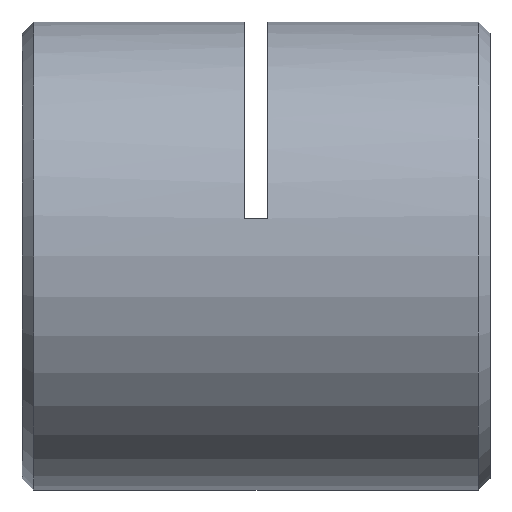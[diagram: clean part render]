
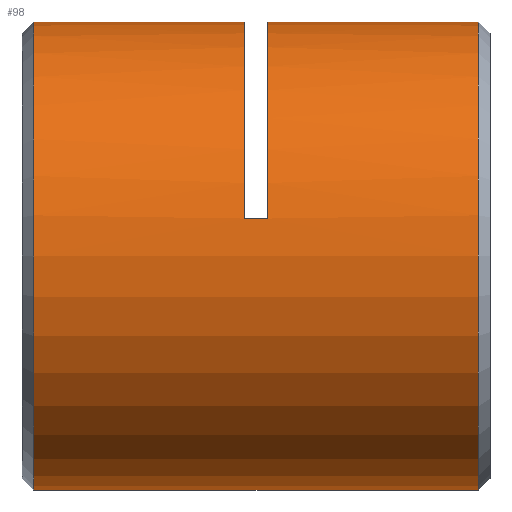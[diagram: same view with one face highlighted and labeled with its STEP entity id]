
A CAD part, left-side view. The second image highlights one B-rep face of the part: STEP entity #98.
In plain terms, the highlighted cylindrical face has radius 8 mm (diameter 16 mm), a partial arc.
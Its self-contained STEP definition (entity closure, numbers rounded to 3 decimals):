
#39 = DIRECTION ( 'NONE',  ( 0., 0., -1. ) ) ;
#94 = CARTESIAN_POINT ( 'NONE',  ( 0., 0.65, 0. ) ) ;
#98 = ADVANCED_FACE ( 'NONE', ( #2787 ), #3502, .T. ) ;
#159 = EDGE_LOOP ( 'NONE', ( #1246, #3808, #1017, #1973, #1243, #2107, #1137, #3886 ) ) ;
#333 = CIRCLE ( 'NONE', #3948, 8. ) ;
#352 = VECTOR ( 'NONE', #1625, 1000. ) ;
#354 = VERTEX_POINT ( 'NONE', #418 ) ;
#364 = DIRECTION ( 'NONE',  ( 0., 1., 0. ) ) ;
#404 = LINE ( 'NONE', #984, #452 ) ;
#417 = DIRECTION ( 'NONE',  ( 0., 0., 1. ) ) ;
#418 = CARTESIAN_POINT ( 'NONE',  ( 0., 0.65, -8. ) ) ;
#427 = EDGE_CURVE ( 'NONE', #2008, #2704, #2584, .T. ) ;
#452 = VECTOR ( 'NONE', #364, 1000. ) ;
#475 = AXIS2_PLACEMENT_3D ( 'NONE', #3677, #1828, #39 ) ;
#492 = AXIS2_PLACEMENT_3D ( 'NONE', #2753, #2127, #3066 ) ;
#631 = CIRCLE ( 'NONE', #2087, 8. ) ;
#703 = CARTESIAN_POINT ( 'NONE',  ( 0., 15.85, 8. ) ) ;
#772 = DIRECTION ( 'NONE',  ( 0., 0., 1. ) ) ;
#782 = CARTESIAN_POINT ( 'NONE',  ( 0., 0.25, 8. ) ) ;
#821 = CARTESIAN_POINT ( 'NONE',  ( 0., 0.25, 8. ) ) ;
#971 = VECTOR ( 'NONE', #3866, 1000. ) ;
#984 = CARTESIAN_POINT ( 'NONE',  ( 0., 0.25, -8. ) ) ;
#1017 = ORIENTED_EDGE ( 'NONE', *, *, #3136, .T. ) ;
#1026 = DIRECTION ( 'NONE',  ( 0., 1., 0. ) ) ;
#1095 = VERTEX_POINT ( 'NONE', #1199 ) ;
#1137 = ORIENTED_EDGE ( 'NONE', *, *, #427, .T. ) ;
#1151 = LINE ( 'NONE', #3739, #352 ) ;
#1199 = CARTESIAN_POINT ( 'NONE',  ( 0., 0.65, 8. ) ) ;
#1215 = EDGE_CURVE ( 'NONE', #354, #1545, #404, .T. ) ;
#1243 = ORIENTED_EDGE ( 'NONE', *, *, #1277, .T. ) ;
#1246 = ORIENTED_EDGE ( 'NONE', *, *, #1215, .F. ) ;
#1277 = EDGE_CURVE ( 'NONE', #1868, #3745, #1151, .T. ) ;
#1422 = VECTOR ( 'NONE', #2956, 1000. ) ;
#1545 = VERTEX_POINT ( 'NONE', #2068 ) ;
#1613 = DIRECTION ( 'NONE',  ( 0., 1., 0. ) ) ;
#1625 = DIRECTION ( 'NONE',  ( 0., 1., 0. ) ) ;
#1777 = EDGE_CURVE ( 'NONE', #2704, #1545, #3068, .T. ) ;
#1789 = LINE ( 'NONE', #821, #1422 ) ;
#1828 = DIRECTION ( 'NONE',  ( 0., -1., 0. ) ) ;
#1868 = VERTEX_POINT ( 'NONE', #3446 ) ;
#1887 = AXIS2_PLACEMENT_3D ( 'NONE', #94, #3139, #3440 ) ;
#1925 = CARTESIAN_POINT ( 'NONE',  ( 0., 7.85, 0. ) ) ;
#1967 = CARTESIAN_POINT ( 'NONE',  ( 0., 8.65, 8. ) ) ;
#1973 = ORIENTED_EDGE ( 'NONE', *, *, #3475, .F. ) ;
#2008 = VERTEX_POINT ( 'NONE', #1967 ) ;
#2068 = CARTESIAN_POINT ( 'NONE',  ( 0., 15.85, -8. ) ) ;
#2087 = AXIS2_PLACEMENT_3D ( 'NONE', #1925, #1613, #417 ) ;
#2107 = ORIENTED_EDGE ( 'NONE', *, *, #2766, .T. ) ;
#2127 = DIRECTION ( 'NONE',  ( 0., 1., 0. ) ) ;
#2402 = VERTEX_POINT ( 'NONE', #3048 ) ;
#2584 = LINE ( 'NONE', #782, #971 ) ;
#2704 = VERTEX_POINT ( 'NONE', #703 ) ;
#2753 = CARTESIAN_POINT ( 'NONE',  ( 0., 0.25, 0. ) ) ;
#2766 = EDGE_CURVE ( 'NONE', #3745, #2008, #333, .T. ) ;
#2787 = FACE_OUTER_BOUND ( 'NONE', #159, .T. ) ;
#2956 = DIRECTION ( 'NONE',  ( 0., 1., 0. ) ) ;
#3048 = CARTESIAN_POINT ( 'NONE',  ( 0., 7.85, 8. ) ) ;
#3066 = DIRECTION ( 'NONE',  ( 0., 0., 1. ) ) ;
#3068 = CIRCLE ( 'NONE', #475, 8. ) ;
#3136 = EDGE_CURVE ( 'NONE', #1095, #2402, #1789, .T. ) ;
#3139 = DIRECTION ( 'NONE',  ( 0., 1., 0. ) ) ;
#3387 = EDGE_CURVE ( 'NONE', #354, #1095, #3874, .T. ) ;
#3440 = DIRECTION ( 'NONE',  ( 0., 0., 1. ) ) ;
#3446 = CARTESIAN_POINT ( 'NONE',  ( -7.897, 7.85, 1.28 ) ) ;
#3475 = EDGE_CURVE ( 'NONE', #1868, #2402, #631, .T. ) ;
#3502 = CYLINDRICAL_SURFACE ( 'NONE', #492, 8. ) ;
#3508 = CARTESIAN_POINT ( 'NONE',  ( 0., 8.65, 0. ) ) ;
#3514 = CARTESIAN_POINT ( 'NONE',  ( -7.897, 8.65, 1.28 ) ) ;
#3677 = CARTESIAN_POINT ( 'NONE',  ( 0., 15.85, 0. ) ) ;
#3739 = CARTESIAN_POINT ( 'NONE',  ( -7.897, 8.25, 1.28 ) ) ;
#3745 = VERTEX_POINT ( 'NONE', #3514 ) ;
#3808 = ORIENTED_EDGE ( 'NONE', *, *, #3387, .T. ) ;
#3866 = DIRECTION ( 'NONE',  ( 0., 1., 0. ) ) ;
#3874 = CIRCLE ( 'NONE', #1887, 8. ) ;
#3886 = ORIENTED_EDGE ( 'NONE', *, *, #1777, .T. ) ;
#3948 = AXIS2_PLACEMENT_3D ( 'NONE', #3508, #1026, #772 ) ;
